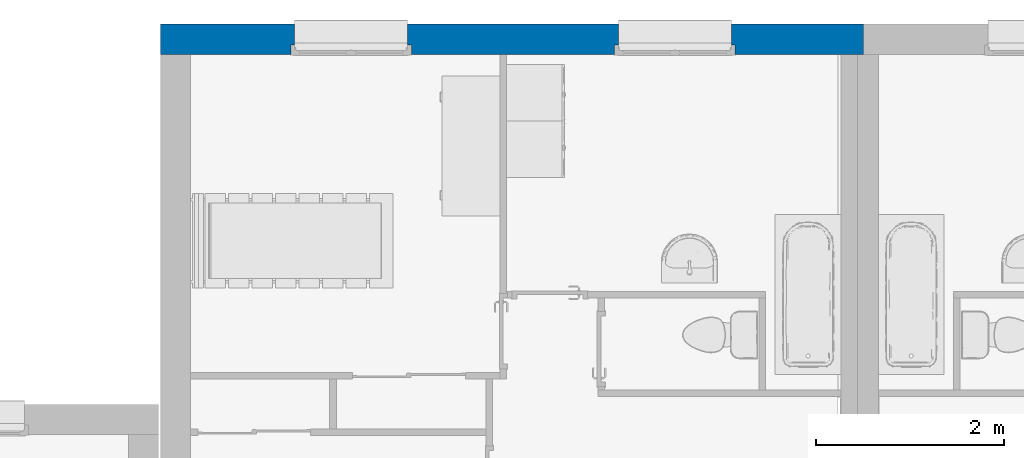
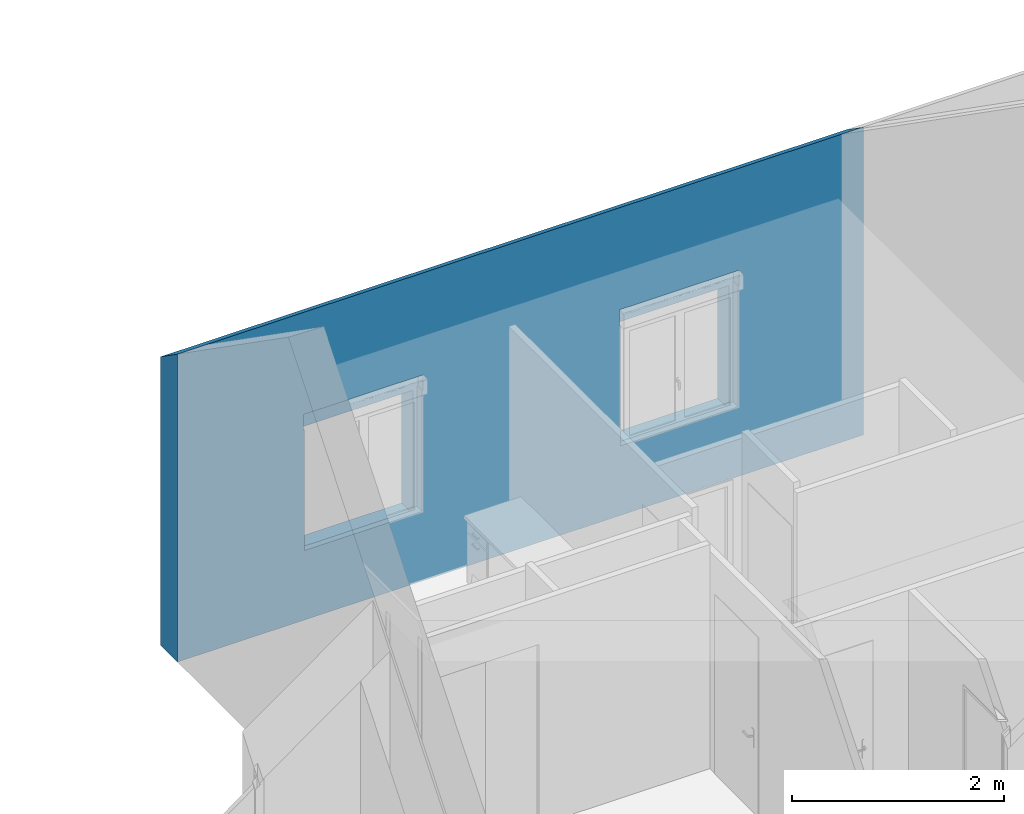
# One storey, part 34 of 50: 1 wall, 2 openings.
"""IFC2X3 building model written with IfcOpenShell, lengths in metres."""

from ifc_helpers import new_model, entity, si_unit, converted_unit, derived_unit, direction, frame, frame_2d, origin, place, context, subcontext, project, spatial, polyline, rectangle, extrude, clip, bounded_halfspace, faceted_brep, material, layer, layer_set, layer_usage, type_object, element, save


model = new_model("IFC2X3")

# Units and contexts
model_context = context("Model", 3, precision=1e-05, world=origin(), true_north=direction((6.12303176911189e-17, 1.0)))
context_of_model = context(None, 3, precision=1e-05, world=origin(), true_north=direction((6.12303176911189e-17, 1.0)))
body_context = subcontext(model_context, "Body", "Model", "MODEL_VIEW")
ifc_project = project(units=[si_unit("LENGTHUNIT", "METRE"), si_unit("AREAUNIT", "SQUARE_METRE"), si_unit("VOLUMEUNIT", "CUBIC_METRE"), converted_unit("PLANEANGLEUNIT", "DEGREE", entity("IfcRatioMeasure", 0.0174532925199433), si_unit("PLANEANGLEUNIT", "RADIAN"), dimensions=[0, 0, 0, 0, 0, 0, 0]), si_unit("MASSUNIT", "GRAM", prefix="KILO"), si_unit("TIMEUNIT", "SECOND"), si_unit("FREQUENCYUNIT", "HERTZ"), si_unit("THERMODYNAMICTEMPERATUREUNIT", "DEGREE_CELSIUS"), derived_unit("THERMALTRANSMITTANCEUNIT", [(si_unit("MASSUNIT", "GRAM", prefix="KILO"), 1), (si_unit("THERMODYNAMICTEMPERATUREUNIT", "KELVIN"), -1), (si_unit("TIMEUNIT", "SECOND"), -3)]), derived_unit("VOLUMETRICFLOWRATEUNIT", [(si_unit("LENGTHUNIT", "METRE"), 3), (si_unit("TIMEUNIT", "SECOND"), -1)]), si_unit("ELECTRICCURRENTUNIT", "AMPERE"), si_unit("ELECTRICVOLTAGEUNIT", "VOLT"), si_unit("POWERUNIT", "WATT"), si_unit("FORCEUNIT", "NEWTON", prefix="KILO"), si_unit("ILLUMINANCEUNIT", "LUX"), si_unit("LUMINOUSFLUXUNIT", "LUMEN"), si_unit("LUMINOUSINTENSITYUNIT", "CANDELA"), si_unit("PRESSUREUNIT", "PASCAL")], contexts=[model_context, context_of_model])

# Site, building, storey
site_placement = place(None, origin())
site = spatial("IfcSite", under=ifc_project, at=site_placement, Name="Surface", CompositionType="ELEMENT")
building_placement = place(site_placement, origin())
building = spatial("IfcBuilding", under=site, at=building_placement, CompositionType="ELEMENT")
storey_placement = place(building_placement, frame((0.0, 0.0, 2.82)))
storey = spatial("IfcBuildingStorey", under=building, at=storey_placement, Name="ETAGE", CompositionType="ELEMENT", Elevation=2.82)

# Wall, openings
ifc_material_1 = material(Name="Enduit blanc cassé2")
ifc_layer_1 = layer(ifc_material_1, 0.02)
ifc_material_2 = material(Name="Parpaing")
ifc_layer_2 = layer(ifc_material_2, 0.2)
ifc_material_3 = material(Name="Isolant")
ifc_layer_3 = layer(ifc_material_3, 0.1)
ifc_layer_set = layer_set([ifc_layer_1, ifc_layer_2, ifc_layer_3], Name="Mur de base:Ext. Parpaing 20 + Isolant 10 enduit blanc cassé")
ifc_layer_usage = layer_usage(ifc_layer_set, "AXIS2", "POSITIVE", -0.16)
wall_type = type_object("IfcWallType", Name="Mur de base:Ext. Parpaing 20 + Isolant 10 enduit blanc cassé", PredefinedType="STANDARD", material=ifc_layer_set)
wall_placement = place(storey_placement, frame((83.7689023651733, 92.3075239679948, 0.0), z_axis=(0.0, 0.0, 1.0), x_axis=(-1.0, 0.0, 0.0)))
wall = element("IfcWallStandardCase", 1, at=wall_placement, inside=storey, type_object=wall_type, material=ifc_layer_usage, Name="Mur de base:Ext. Parpaing 20 + Isolant 10 enduit blanc cassé", ObjectType="Mur de base:Ext. Parpaing 20 + Isolant 10 enduit blanc cassé", context=body_context, shape_type="Clipping", body=[
    clip(extrude(rectangle(XDim=7.46614635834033, YDim=0.319999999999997, at=frame_2d((3.73307317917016, -2.55351295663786e-15), x_axis=(-1.0, 0.0))), origin(), (0.0, 0.0, 1.0), 3.5440664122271), bounded_halfspace(frame((0.0, -0.159999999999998, 3.32), z_axis=(0.0, -0.573576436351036, 0.819152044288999), x_axis=(1.0, 0.0, 0.0)), False, frame((0.0, -0.159999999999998, 3.32)), polyline([(0.0, 0.0), (7.46614635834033, 0.0), (7.46614635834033, 0.319999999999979), (7.14614635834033, 0.319999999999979), (0.237500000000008, 0.319999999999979), (0.0625000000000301, 0.319999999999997), (0.0175000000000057, 0.319999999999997), (0.0, 0.319999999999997), (0.0, 0.0)]))),
])
opening_1_placement = place(wall_placement, frame((2.65394170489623, 0.499999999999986, 0.719999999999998), z_axis=(0.0, 0.0, 1.0), x_axis=(-1.0, 0.0, 0.0)))
element("IfcOpeningElement", 2, at=opening_1_placement, cuts=wall, Name="Mur de base:Ext. Parpaing 20 + Isolant 10 enduit blanc cassé", ObjectType="Opening", context=body_context, shape_type="Brep", body=[
    faceted_brep([(0.0499999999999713, 0.0, 1.43), (0.0499999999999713, 0.0, 0.0800000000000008), (1.24999999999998, 0.0, 0.0800000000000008), (1.24999999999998, 0.0, 1.43), (0.0499999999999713, 1.0, 1.43), (1.24999999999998, 1.0, 1.43), (1.24999999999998, 1.0, 0.0800000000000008), (0.0499999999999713, 1.0, 0.0800000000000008), (1.24999999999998, 0.326999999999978, 1.43), (0.0499999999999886, 0.326999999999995, 1.43), (1.24999999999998, 0.326999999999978, 0.0800000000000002), (0.0499999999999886, 0.326999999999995, 0.0800000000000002), (0.0099999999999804, 0.326999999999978, 0.0800000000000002), (0.0099999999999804, 0.439999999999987, 0.0800000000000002), (0.0499999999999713, 0.439999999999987, 0.0800000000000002), (0.0499999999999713, 0.405000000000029, 0.0800000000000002), (1.24999999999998, 0.405000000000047, 0.0800000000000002), (1.24999999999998, 0.439999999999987, 0.0800000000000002), (1.28999999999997, 0.439999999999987, 0.0800000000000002), (1.28999999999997, 0.326999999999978, 0.0800000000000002), (1.28999999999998, 0.326999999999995, 1.47), (0.0099999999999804, 0.326999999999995, 1.47), (1.28999999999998, 0.439999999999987, 1.47), (1.24999999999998, 0.439999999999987, 1.43), (0.0499999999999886, 0.439999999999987, 1.43), (0.0099999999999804, 0.439999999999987, 1.47), (0.0, 0.440000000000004, 1.47), (0.0, 0.440000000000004, 1.65), (1.29999999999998, 0.439999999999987, 1.65), (1.29999999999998, 0.440000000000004, 1.47), (1.29999999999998, 0.307, 1.65), (1.29999999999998, 0.307, 1.47), (0.0, 0.307, 1.65), (0.0, 0.307, 1.47), (1.24999999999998, 0.439999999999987, 0.0), (1.24999999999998, 0.405000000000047, 0.0349999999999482), (0.0499999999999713, 0.405000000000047, 0.0349999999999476), (0.0499999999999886, 0.439999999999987, 0.0), (1.24999999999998, 0.705000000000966, 0.0800000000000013), (1.24999999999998, 0.705000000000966, 0.0), (0.0499999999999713, 0.705000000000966, 0.0), (0.0499999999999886, 0.705000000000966, 0.0800000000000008)], [[[0, 1, 2, 3]], [[4, 5, 6, 7]], [[0, 3, 8, 9]], [[3, 2, 10, 8]], [[2, 1, 11, 12, 13, 14, 15, 16, 17, 18, 19, 10]], [[1, 0, 9, 11]], [[10, 19, 20, 21, 12, 11, 9, 8]], [[19, 18, 22, 20]], [[18, 17, 23, 24, 14, 13, 25, 26, 27, 28, 29, 22]], [[12, 21, 25, 13]], [[30, 31, 29, 28]], [[32, 27, 26, 33]], [[30, 28, 27, 32]], [[29, 31, 33, 26, 25, 21, 20, 22]], [[31, 30, 32, 33]], [[34, 35, 36, 37]], [[35, 16, 15, 36]], [[38, 39, 40, 41]], [[39, 34, 37, 40]], [[4, 7, 41, 40, 37, 36, 15, 14, 24]], [[7, 6, 38, 41]], [[6, 5, 23, 17, 16, 35, 34, 39, 38]], [[5, 4, 24, 23]]]),
])
opening_2_placement = place(wall_placement, frame((6.09307317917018, 0.500000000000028, 0.719999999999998), z_axis=(0.0, 0.0, 1.0), x_axis=(-1.0, 0.0, 0.0)))
element("IfcOpeningElement", 3, at=opening_2_placement, cuts=wall, Name="Mur de base:Ext. Parpaing 20 + Isolant 10 enduit blanc cassé", ObjectType="Opening", context=body_context, shape_type="Brep", body=[
    faceted_brep([(0.0499999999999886, 0.0, 1.43), (0.0499999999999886, 0.0, 0.0800000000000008), (1.24999999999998, 0.0, 0.0800000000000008), (1.24999999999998, 0.0, 1.43), (0.0499999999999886, 1.0, 1.43), (1.24999999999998, 1.0, 1.43), (1.24999999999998, 1.0, 0.0800000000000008), (0.0499999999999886, 1.0, 0.0800000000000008), (1.24999999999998, 0.326999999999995, 1.43), (0.0499999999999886, 0.327000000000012, 1.43), (1.24999999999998, 0.326999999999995, 0.0800000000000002), (0.0499999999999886, 0.327000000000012, 0.0800000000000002), (0.0099999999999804, 0.326999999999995, 0.0800000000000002), (0.0099999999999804, 0.440000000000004, 0.0800000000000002), (0.04999999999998, 0.440000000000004, 0.0800000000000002), (0.04999999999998, 0.405000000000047, 0.0800000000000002), (1.24999999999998, 0.405000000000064, 0.0800000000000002), (1.24999999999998, 0.440000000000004, 0.0800000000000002), (1.28999999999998, 0.440000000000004, 0.0800000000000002), (1.28999999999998, 0.326999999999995, 0.0800000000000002), (1.28999999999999, 0.327000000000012, 1.47), (0.00999999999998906, 0.327000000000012, 1.47), (1.28999999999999, 0.440000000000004, 1.47), (1.24999999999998, 0.440000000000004, 1.43), (0.0499999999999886, 0.440000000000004, 1.43), (0.00999999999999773, 0.440000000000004, 1.47), (0.0, 0.440000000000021, 1.47), (0.0, 0.440000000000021, 1.65), (1.29999999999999, 0.440000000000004, 1.65), (1.29999999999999, 0.440000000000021, 1.47), (1.29999999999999, 0.307000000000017, 1.65), (1.29999999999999, 0.307000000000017, 1.47), (0.0, 0.307000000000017, 1.65), (0.0, 0.307000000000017, 1.47), (1.24999999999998, 0.440000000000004, 0.0), (1.24999999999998, 0.405000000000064, 0.0349999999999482), (0.0499999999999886, 0.405000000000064, 0.0349999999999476), (0.0499999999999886, 0.440000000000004, 0.0), (1.24999999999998, 0.705000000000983, 0.0800000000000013), (1.24999999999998, 0.705000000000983, 0.0), (0.0499999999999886, 0.705000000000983, 0.0), (0.04999999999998, 0.705000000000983, 0.0800000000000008)], [[[0, 1, 2, 3]], [[4, 5, 6, 7]], [[0, 3, 8, 9]], [[3, 2, 10, 8]], [[2, 1, 11, 12, 13, 14, 15, 16, 17, 18, 19, 10]], [[1, 0, 9, 11]], [[10, 19, 20, 21, 12, 11, 9, 8]], [[19, 18, 22, 20]], [[18, 17, 23, 24, 14, 13, 25, 26, 27, 28, 29, 22]], [[12, 21, 25, 13]], [[30, 31, 29, 28]], [[32, 27, 26, 33]], [[30, 28, 27, 32]], [[29, 31, 33, 26, 25, 21, 20, 22]], [[31, 30, 32, 33]], [[34, 35, 36, 37]], [[35, 16, 15, 36]], [[38, 39, 40, 41]], [[39, 34, 37, 40]], [[4, 7, 41, 40, 37, 36, 15, 14, 24]], [[7, 6, 38, 41]], [[6, 5, 23, 17, 16, 35, 34, 39, 38]], [[5, 4, 24, 23]]]),
])

save(model, "model.ifc")
